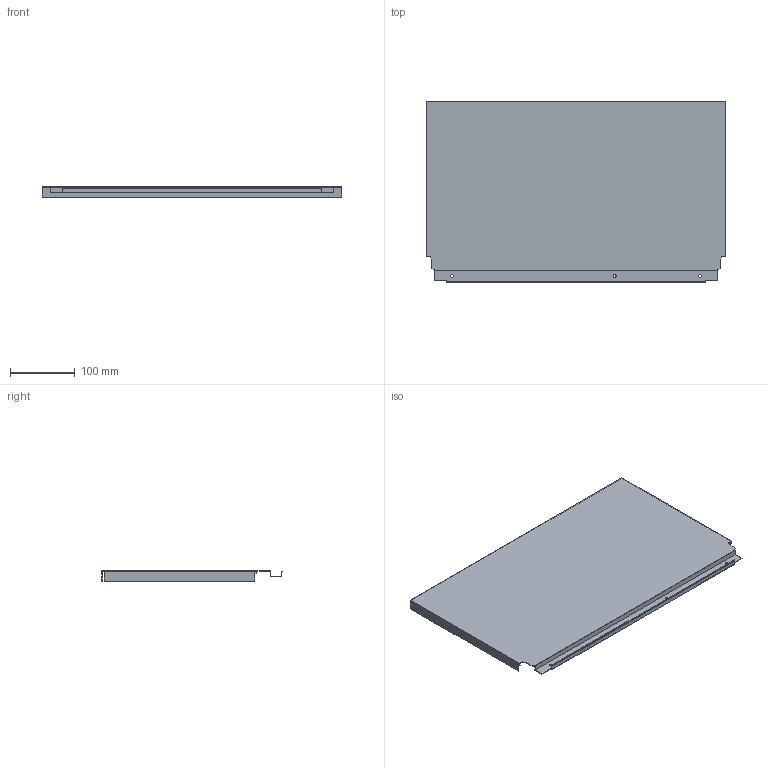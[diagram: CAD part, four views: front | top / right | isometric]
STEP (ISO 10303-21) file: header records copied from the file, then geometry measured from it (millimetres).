
FILE_DESCRIPTION (( 'STEP AP214' ), '1' );
FILE_NAME ('_DWD_XP Stahlrückwand_H278_KAB550_S18.step', '2010-07-08T13:03:56', ( 'grass' ), ( '' ), 'SwSTEP 2.0', 'SolidWorks 2010', '' );
FILE_SCHEMA (( 'AUTOMOTIVE_DESIGN' ));
Length unit declared in the file: millimetre
Products named in the file (1): _DWD_XP Stahlrückwand_H278_KAB550_S18
Bounding box: 463 x 278.57 x 16 mm (x, y, z)
Volume: 130576.2 mm3; surface area: 298167.6 mm2
Topology: 1 solids, 1 shells, 46 faces, 132 edges, 88 vertices
Faces by surface type: plane 40, cylinder 6
Entity records: 1534 total; most frequent: CARTESIAN_POINT 267, ORIENTED_EDGE 264, DIRECTION 238, EDGE_CURVE 132, LINE 120, VECTOR 120, VERTEX_POINT 88, AXIS2_PLACEMENT_3D 59
